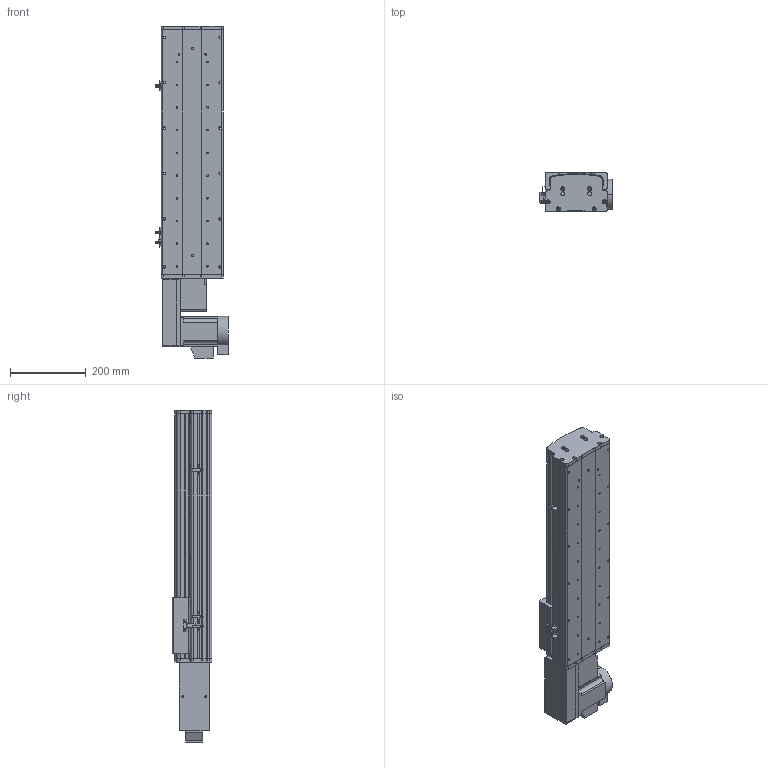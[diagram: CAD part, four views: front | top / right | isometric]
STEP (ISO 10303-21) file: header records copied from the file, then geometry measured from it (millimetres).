
FILE_DESCRIPTION (( 'STEP AP214' ), '1' );
FILE_NAME ('KSD165B-S400-MLB-CM .STEP', '2017-10-16T05:51:00', ( '微软用户' ), ( '微软中国' ), 'SwSTEP 2.0', 'SolidWorks 2014', '' );
FILE_SCHEMA (( 'AUTOMOTIVE_DESIGN' ));
Length unit declared in the file: millimetre
Products named in the file (17): HTPA26S5M250-A-H8 750W萇儂蚚; HTPA26S5M250-A-H8 400W萇儂蚚 ; 130宽模组马达安装板连板左右折同步带; 130宽模组保护罩上下左右折-同步带; 165宽马达安装板同步带左-改; KSD165模组-同步带防尘盖1-400行程-最新版; KSD165模组同步带底板-400行程-最新; 拸秶雄ん750W侜督萇儂; U倰嫖萇假蚾璃; U倰嫖萇EEㄜSX672; 覜茼え68遵圉猾敕; KSD165模组-同步带-防撞垫2; KSD165模组同步带-防撞垫1; KSD165耀郪-ヶ傷啣1-肮祭湍; KSD165模组-后端板1-同步带; KSD165模组-同步带滑动座-最新版; KSD165B-S400-MLB-CM 
Assembly tree (20 placements, depth 2):
  KSD165B-S400-MLB-CM 
    KSD165模组-同步带滑动座-最新版
    KSD165模组-后端板1-同步带
    KSD165耀郪-ヶ傷啣1-肮祭湍
    KSD165模组同步带-防撞垫1
    KSD165模组-同步带-防撞垫2
    覜茼え68遵圉猾敕
    U倰嫖萇EEㄜSX672  x3
    U倰嫖萇假蚾璃  x3
    拸秶雄ん750W侜督萇儂
    KSD165模组同步带底板-400行程-最新
    KSD165模组-同步带防尘盖1-400行程-最新版
    165宽马达安装板同步带左-改
    130宽模组保护罩上下左右折-同步带
    130宽模组马达安装板连板左右折同步带
    HTPA26S5M250-A-H8 400W萇儂蚚 
    HTPA26S5M250-A-H8 750W萇儂蚚
Bounding box: 191.2 x 104 x 878 mm (x, y, z)
Volume: 5208425.5 mm3; surface area: 1204401.1 mm2
Topology: 21 solids, 22 shells, 1889 faces, 5316 edges, 3468 vertices
Faces by surface type: cylinder 1197, plane 580, cone 112
Entity records: 60584 total; most frequent: CARTESIAN_POINT 12414, DIRECTION 10020, ORIENTED_EDGE 9292, EDGE_CURVE 4646, AXIS2_PLACEMENT_3D 3920, VERTEX_POINT 3060, CIRCLE 2228, LINE 2180
